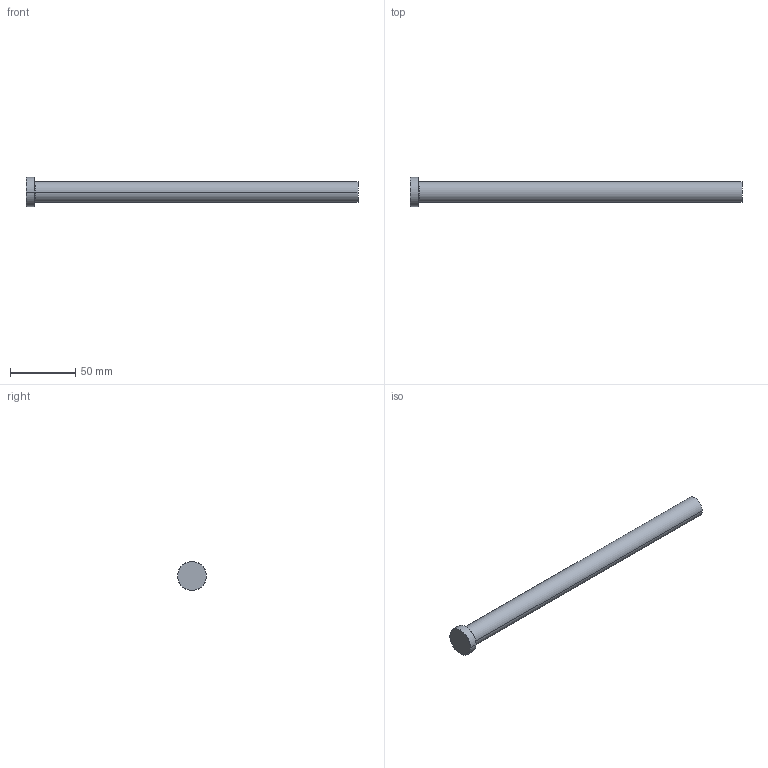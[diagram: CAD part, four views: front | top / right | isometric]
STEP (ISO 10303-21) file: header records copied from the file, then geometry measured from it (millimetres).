
FILE_DESCRIPTION (( 'STEP AP214' ), '1' );
FILE_NAME ('P37-10.STEP', '2020-03-12T12:06:17', ( '' ), ( '' ), 'SwSTEP 2.0', 'SolidWorks 2018', '' );
FILE_SCHEMA (( 'AUTOMOTIVE_DESIGN' ));
Length unit declared in the file: inch
Products named in the file (1): P37-10
Bounding box: 254 x 22.23 x 22.23 mm (x, y, z)
Volume: 51408.7 mm3; surface area: 13536 mm2
Topology: 1 solids, 1 shells, 13 faces, 24 edges, 14 vertices
Faces by surface type: cone 4, cylinder 4, plane 3, torus 2
Entity records: 366 total; most frequent: DIRECTION 68, CARTESIAN_POINT 52, ORIENTED_EDGE 48, AXIS2_PLACEMENT_3D 30, EDGE_CURVE 24, CIRCLE 16, VERTEX_POINT 14, EDGE_LOOP 14
